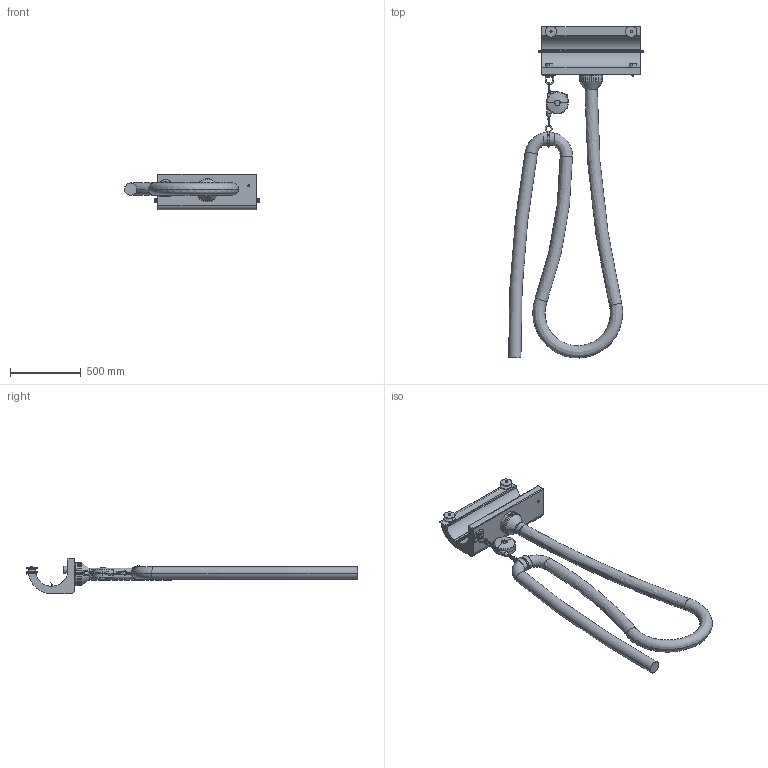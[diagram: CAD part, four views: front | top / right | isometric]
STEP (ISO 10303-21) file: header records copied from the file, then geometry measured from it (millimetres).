
FILE_DESCRIPTION((''),'2;1');
FILE_NAME('APS_507_M-L','2022-05-25T14:53:03',('Tomas Bellgran'),(''),'CREO PARAMETRIC BY PTC INC, 2018260','CREO PARAMETRIC BY PTC INC, 2018260','');
FILE_SCHEMA(('AUTOMOTIVE_DESIGN { 1 0 10303 214 1 1 1 1 }'));
Length unit declared in the file: millimetre
Products named in the file (17): 130-500_LIGHT; SURRNINGSOGLA; RCF_160-75; RF300_L; 109050-1-REF; 109050-2-REF; 109050; 109020; 129018; 108775_AF40; 115263; 109053-1-REF; 109053-2-REF; 109053; HOSE_LEFT-75; LEFT_HOSE_PKG_75; APS_507_M-L
Assembly tree (16 placements, depth 5):
  APS_507_M-L
    130-500_LIGHT
    SURRNINGSOGLA
    RCF_160-75
    LEFT_HOSE_PKG_75
      109020
        RF300_L
        109050
          109050-1-REF
          109050-2-REF
      129018
      108775_AF40
      115263
      109053
        109053-1-REF
        109053-2-REF
      HOSE_LEFT-75
Bounding box: 954.47 x 2351.57 x 251 mm (x, y, z)
Volume: 57126726.3 mm3; surface area: 2825719.9 mm2
Topology: 12 solids, 12 shells, 512 faces, 1209 edges, 752 vertices
Faces by surface type: plane 202, cylinder 189, torus 59, cone 38, bspline 16, sphere 8
Entity records: 29918 total; most frequent: CARTESIAN_POINT 6401, DIRECTION 2937, ORIENTED_EDGE 2402, PRESENTATION_STYLE_ASSIGNMENT 1478, STYLED_ITEM 1408, EDGE_CURVE 1201, AXIS2_PLACEMENT_3D 1157, CURVE_STYLE 1093
